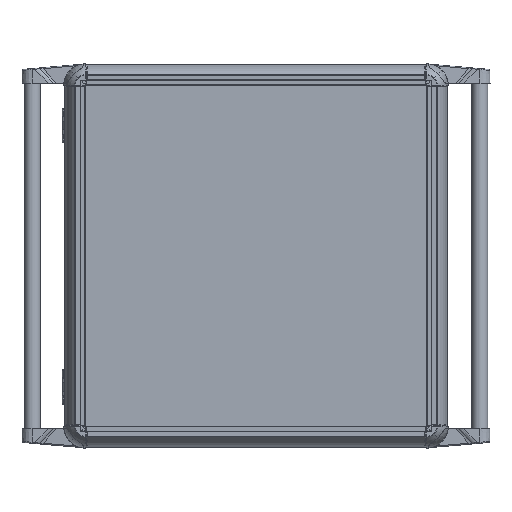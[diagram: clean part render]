
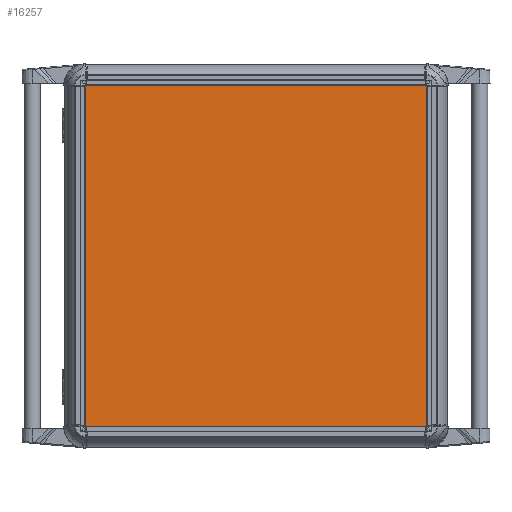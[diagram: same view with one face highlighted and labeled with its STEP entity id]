
A CAD part, top view. The second image highlights one B-rep face of the part: STEP entity #16257.
In plain terms, the highlighted planar face has unit normal (0, 0, 1).
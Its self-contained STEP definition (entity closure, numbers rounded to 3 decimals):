
#2189 = DIRECTION ( 'NONE',  ( 0., -1., 0. ) ) ;
#16257 = ADVANCED_FACE ( 'NONE', ( #16377 ), #109106, .T. ) ;
#16377 = FACE_OUTER_BOUND ( 'NONE', #140141, .T. ) ;
#16518 = VERTEX_POINT ( 'NONE', #33486 ) ;
#24318 = DIRECTION ( 'NONE',  ( 0., 1., 0. ) ) ;
#27137 = DIRECTION ( 'NONE',  ( -1., 0., 0. ) ) ;
#29349 = VECTOR ( 'NONE', #79199, 1000. ) ;
#33486 = CARTESIAN_POINT ( 'NONE',  ( -200., -200., 2. ) ) ;
#43407 = AXIS2_PLACEMENT_3D ( 'NONE', #73203, #85999, #53451 ) ;
#44066 = ORIENTED_EDGE ( 'NONE', *, *, #86209, .T. ) ;
#53451 = DIRECTION ( 'NONE',  ( 1., 0., 0. ) ) ;
#73203 = CARTESIAN_POINT ( 'NONE',  ( 0., 0., 2. ) ) ;
#79199 = DIRECTION ( 'NONE',  ( 1., 0., 0. ) ) ;
#82804 = LINE ( 'NONE', #100159, #138258 ) ;
#85999 = DIRECTION ( 'NONE',  ( 0., 0., 1. ) ) ;
#86209 = EDGE_CURVE ( 'NONE', #107943, #16518, #89096, .T. ) ;
#86637 = EDGE_CURVE ( 'NONE', #16518, #89825, #116217, .T. ) ;
#87031 = CARTESIAN_POINT ( 'NONE',  ( 200., 200., 2. ) ) ;
#89096 = LINE ( 'NONE', #216659, #181060 ) ;
#89825 = VERTEX_POINT ( 'NONE', #93823 ) ;
#93823 = CARTESIAN_POINT ( 'NONE',  ( 200., -200., 2. ) ) ;
#100159 = CARTESIAN_POINT ( 'NONE',  ( -200., 200., 2. ) ) ;
#102867 = CARTESIAN_POINT ( 'NONE',  ( -200., 200., 2. ) ) ;
#105570 = LINE ( 'NONE', #87031, #211589 ) ;
#107943 = VERTEX_POINT ( 'NONE', #102867 ) ;
#109106 = PLANE ( 'NONE',  #43407 ) ;
#116217 = LINE ( 'NONE', #170674, #29349 ) ;
#118684 = ORIENTED_EDGE ( 'NONE', *, *, #86637, .T. ) ;
#124437 = ORIENTED_EDGE ( 'NONE', *, *, #158752, .T. ) ;
#125411 = EDGE_CURVE ( 'NONE', #220553, #107943, #82804, .T. ) ;
#138258 = VECTOR ( 'NONE', #27137, 1000. ) ;
#140141 = EDGE_LOOP ( 'NONE', ( #124437, #216730, #44066, #118684 ) ) ;
#158752 = EDGE_CURVE ( 'NONE', #89825, #220553, #105570, .T. ) ;
#170674 = CARTESIAN_POINT ( 'NONE',  ( -200., -200., 2. ) ) ;
#181060 = VECTOR ( 'NONE', #2189, 1000. ) ;
#191635 = CARTESIAN_POINT ( 'NONE',  ( 200., 200., 2. ) ) ;
#211589 = VECTOR ( 'NONE', #24318, 1000. ) ;
#216659 = CARTESIAN_POINT ( 'NONE',  ( -200., 200., 2. ) ) ;
#216730 = ORIENTED_EDGE ( 'NONE', *, *, #125411, .T. ) ;
#220553 = VERTEX_POINT ( 'NONE', #191635 ) ;
